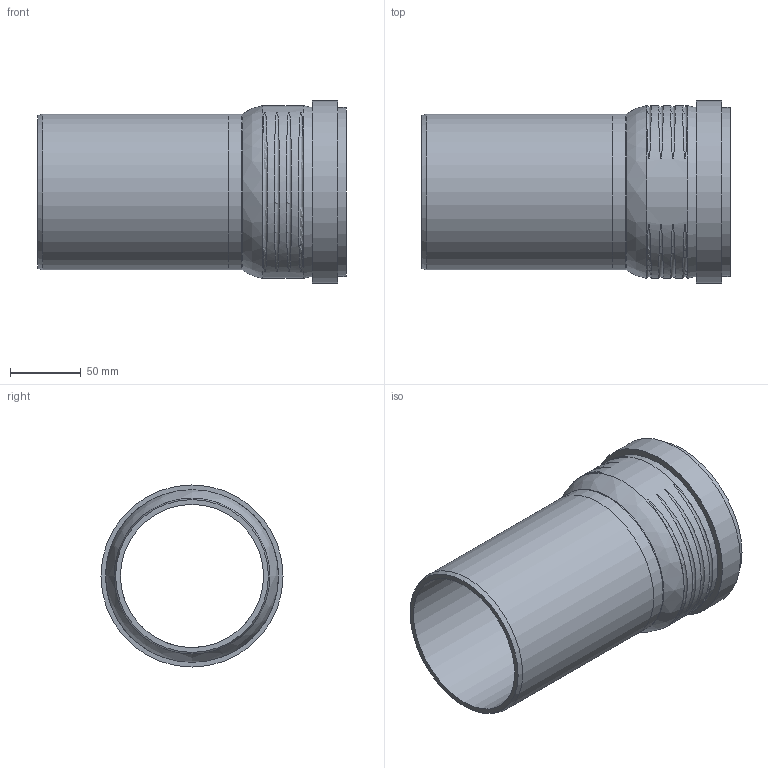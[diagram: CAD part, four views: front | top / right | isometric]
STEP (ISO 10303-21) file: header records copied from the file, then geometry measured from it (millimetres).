
FILE_DESCRIPTION(/* description */ (''),/* implementation_level */ '2;1');
FILE_NAME(/* name */ 'H:\Geberit-Teile\Export\PP_Rohr\stp\393500.stp',/* time_stamp */ '2017-02-13T16:08:00+01:00',/* author */ ('seihe2'),/* organization */ (''),/* preprocessor_version */ 'ST-DEVELOPER v15.2',/* originating_system */ 'Autodesk Inventor 2014',/* authorisation */ '');
FILE_SCHEMA (('AUTOMOTIVE_DESIGN { 1 0 10303 214 3 1 1 }'));
Length unit declared in the file: millimetre
Products named in the file (1): 393500
Bounding box: 218.1 x 128.7 x 128.7 mm (x, y, z)
Volume: 357445.8 mm3; surface area: 171509.1 mm2
Topology: 2 solids, 2 shells, 38 faces, 81 edges, 56 vertices
Faces by surface type: torus 17, cylinder 10, plane 8, cone 2, bspline 1
Full cylindrical faces by diameter (mm): 101.2 x2, 110.2 x2, 111.1 x1, 113.7 x1, 119.5 x1, 121.3 x1, 122.1 x1, 128.7 x1
Entity records: 2113 total; most frequent: CARTESIAN_POINT 1334, DIRECTION 130, ORIENTED_EDGE 124, EDGE_LOOP 69, AXIS2_PLACEMENT_3D 65, EDGE_CURVE 62, VERTEX_POINT 55, STYLED_ITEM 40
